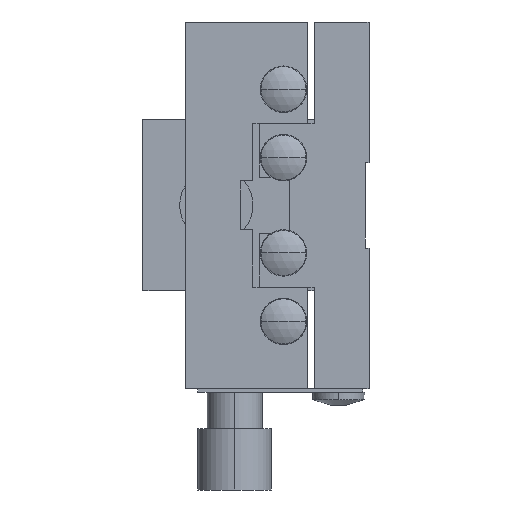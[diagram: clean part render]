
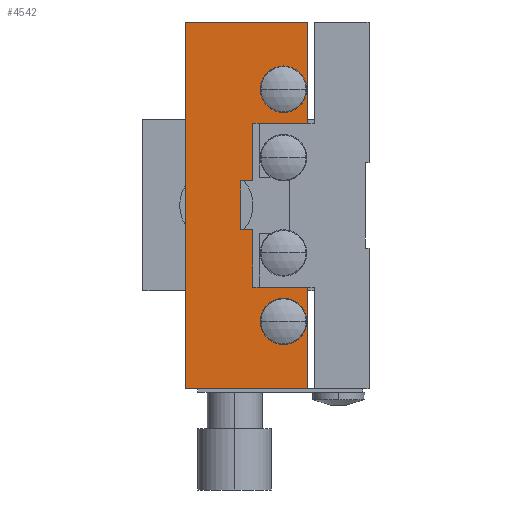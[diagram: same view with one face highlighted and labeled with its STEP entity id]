
A CAD part, left-side view. The second image highlights one B-rep face of the part: STEP entity #4542.
In plain terms, the highlighted planar face has unit normal (-1, 0, 0).
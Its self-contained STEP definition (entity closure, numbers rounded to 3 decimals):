
#2508 = EDGE_CURVE ( 'NONE', #3285, #3283, #4198, .T. ) ;
#2563 = VECTOR ( 'NONE', #6503, 1000. ) ;
#2585 = CIRCLE ( 'NONE', #2588, 1.9 ) ;
#2587 = VECTOR ( 'NONE', #6559, 1000. ) ;
#2588 = AXIS2_PLACEMENT_3D ( 'NONE', #6556, #6557, #6558 ) ;
#2589 = VECTOR ( 'NONE', #6563, 1000. ) ;
#2708 = CARTESIAN_POINT ( 'NONE',  ( -15., 8.9, -24.5 ) ) ;
#2715 = CARTESIAN_POINT ( 'NONE',  ( -15., 5.1, -24.5 ) ) ;
#2716 = CARTESIAN_POINT ( 'NONE',  ( -15., 8.9, -5.5 ) ) ;
#2718 = CARTESIAN_POINT ( 'NONE',  ( -15., 5.1, -5.5 ) ) ;
#2721 = CARTESIAN_POINT ( 'NONE',  ( -15., 5., -21.7 ) ) ;
#2736 = CARTESIAN_POINT ( 'NONE',  ( -15., 15., -30. ) ) ;
#2741 = CARTESIAN_POINT ( 'NONE',  ( -15., 5., -30. ) ) ;
#2744 = CARTESIAN_POINT ( 'NONE',  ( -15., 5., 0. ) ) ;
#2747 = CARTESIAN_POINT ( 'NONE',  ( -15., 5., -8.3 ) ) ;
#2748 = CARTESIAN_POINT ( 'NONE',  ( -15., 10.5, -13. ) ) ;
#2749 = CARTESIAN_POINT ( 'NONE',  ( -15., 15., 0. ) ) ;
#2757 = CARTESIAN_POINT ( 'NONE',  ( -15., 10.5, -17. ) ) ;
#2758 = CARTESIAN_POINT ( 'NONE',  ( -15., 9.5, -17. ) ) ;
#2759 = CARTESIAN_POINT ( 'NONE',  ( -15., 9.5, -13. ) ) ;
#2760 = CARTESIAN_POINT ( 'NONE',  ( -15., 9.5, -21.7 ) ) ;
#2761 = CARTESIAN_POINT ( 'NONE',  ( -15., 9.5, -8.3 ) ) ;
#3125 = EDGE_CURVE ( 'NONE', #3308, #3288, #4886, .T. ) ;
#3126 = EDGE_CURVE ( 'NONE', #3288, #3327, #4883, .T. ) ;
#3127 = EDGE_CURVE ( 'NONE', #3325, #3327, #4890, .T. ) ;
#3128 = EDGE_CURVE ( 'NONE', #3324, #3325, #4884, .T. ) ;
#3129 = EDGE_CURVE ( 'NONE', #3315, #3324, #4885, .T. ) ;
#3130 = EDGE_CURVE ( 'NONE', #3326, #3315, #4891, .T. ) ;
#3131 = EDGE_CURVE ( 'NONE', #3328, #3326, #4895, .T. ) ;
#3132 = EDGE_CURVE ( 'NONE', #3328, #3314, #4898, .T. ) ;
#3133 = EDGE_CURVE ( 'NONE', #3282, #3279, #4104, .T. ) ;
#3279 = VERTEX_POINT ( 'NONE', #2708 ) ;
#3282 = VERTEX_POINT ( 'NONE', #2715 ) ;
#3283 = VERTEX_POINT ( 'NONE', #2716 ) ;
#3285 = VERTEX_POINT ( 'NONE', #2718 ) ;
#3288 = VERTEX_POINT ( 'NONE', #2721 ) ;
#3303 = VERTEX_POINT ( 'NONE', #2736 ) ;
#3308 = VERTEX_POINT ( 'NONE', #2741 ) ;
#3311 = VERTEX_POINT ( 'NONE', #2744 ) ;
#3314 = VERTEX_POINT ( 'NONE', #2747 ) ;
#3315 = VERTEX_POINT ( 'NONE', #2748 ) ;
#3316 = VERTEX_POINT ( 'NONE', #2749 ) ;
#3324 = VERTEX_POINT ( 'NONE', #2757 ) ;
#3325 = VERTEX_POINT ( 'NONE', #2758 ) ;
#3326 = VERTEX_POINT ( 'NONE', #2759 ) ;
#3327 = VERTEX_POINT ( 'NONE', #2760 ) ;
#3328 = VERTEX_POINT ( 'NONE', #2761 ) ;
#3902 = VECTOR ( 'NONE', #4888, 1000. ) ;
#3908 = VECTOR ( 'NONE', #4893, 1000. ) ;
#3911 = VECTOR ( 'NONE', #4889, 1000. ) ;
#3981 = EDGE_CURVE ( 'NONE', #3279, #3282, #4630, .T. ) ;
#4092 = AXIS2_PLACEMENT_3D ( 'NONE', #4907, #4908, #4909 ) ;
#4095 = VECTOR ( 'NONE', #4899, 1000. ) ;
#4096 = VECTOR ( 'NONE', #4906, 1000. ) ;
#4103 = VECTOR ( 'NONE', #4896, 1000. ) ;
#4104 = CIRCLE ( 'NONE', #4092, 1.9 ) ;
#4106 = VECTOR ( 'NONE', #4904, 1000. ) ;
#4107 = VECTOR ( 'NONE', #4901, 1000. ) ;
#4142 = AXIS2_PLACEMENT_3D ( 'NONE', #6405, #6403, #6411 ) ;
#4144 = VECTOR ( 'NONE', #6493, 1000. ) ;
#4198 = CIRCLE ( 'NONE', #4203, 1.9 ) ;
#4203 = AXIS2_PLACEMENT_3D ( 'NONE', #4814, #4815, #4816 ) ;
#4542 = ADVANCED_FACE ( 'NONE', ( #6406, #6400, #6408 ), #6409, .F. ) ;
#4568 = EDGE_CURVE ( 'NONE', #3308, #3303, #6484, .T. ) ;
#4571 = EDGE_CURVE ( 'NONE', #3311, #3314, #6487, .T. ) ;
#4589 = EDGE_CURVE ( 'NONE', #3283, #3285, #2585, .T. ) ;
#4590 = EDGE_CURVE ( 'NONE', #3316, #3311, #6549, .T. ) ;
#4591 = EDGE_CURVE ( 'NONE', #3303, #3316, #6560, .T. ) ;
#4630 = CIRCLE ( 'NONE', #4631, 1.9 ) ;
#4631 = AXIS2_PLACEMENT_3D ( 'NONE', #5773, #5774, #5775 ) ;
#4814 = CARTESIAN_POINT ( 'NONE',  ( -15., 7., -5.5 ) ) ;
#4815 = DIRECTION ( 'NONE',  ( 1., 0., 0. ) ) ;
#4816 = DIRECTION ( 'NONE',  ( 0., -1., 0. ) ) ;
#4872 = CARTESIAN_POINT ( 'NONE',  ( -15., 9., -21.7 ) ) ;
#4883 = LINE ( 'NONE', #4872, #3911 ) ;
#4884 = LINE ( 'NONE', #4894, #4103 ) ;
#4885 = LINE ( 'NONE', #4897, #4095 ) ;
#4886 = LINE ( 'NONE', #4887, #3902 ) ;
#4887 = CARTESIAN_POINT ( 'NONE',  ( -15., 5., -22.2 ) ) ;
#4888 = DIRECTION ( 'NONE',  ( 0., 0., 1. ) ) ;
#4889 = DIRECTION ( 'NONE',  ( 0., 1., 0. ) ) ;
#4890 = LINE ( 'NONE', #4892, #3908 ) ;
#4891 = LINE ( 'NONE', #4900, #4107 ) ;
#4892 = CARTESIAN_POINT ( 'NONE',  ( -15., 9.5, -22.2 ) ) ;
#4893 = DIRECTION ( 'NONE',  ( 0., 0., -1. ) ) ;
#4894 = CARTESIAN_POINT ( 'NONE',  ( -15., 9.5, -17. ) ) ;
#4895 = LINE ( 'NONE', #4902, #4106 ) ;
#4896 = DIRECTION ( 'NONE',  ( 0., -1., 0. ) ) ;
#4897 = CARTESIAN_POINT ( 'NONE',  ( -15., 10.5, -17. ) ) ;
#4898 = LINE ( 'NONE', #4905, #4096 ) ;
#4899 = DIRECTION ( 'NONE',  ( 0., 0., -1. ) ) ;
#4900 = CARTESIAN_POINT ( 'NONE',  ( -15., 10.5, -13. ) ) ;
#4901 = DIRECTION ( 'NONE',  ( 0., 1., 0. ) ) ;
#4902 = CARTESIAN_POINT ( 'NONE',  ( -15., 9.5, -13. ) ) ;
#4904 = DIRECTION ( 'NONE',  ( 0., 0., -1. ) ) ;
#4905 = CARTESIAN_POINT ( 'NONE',  ( -15., 9., -8.3 ) ) ;
#4906 = DIRECTION ( 'NONE',  ( 0., -1., 0. ) ) ;
#4907 = CARTESIAN_POINT ( 'NONE',  ( -15., 7., -24.5 ) ) ;
#4908 = DIRECTION ( 'NONE',  ( -1., 0., 0. ) ) ;
#4909 = DIRECTION ( 'NONE',  ( 0., -1., 0. ) ) ;
#5773 = CARTESIAN_POINT ( 'NONE',  ( -15., 7., -24.5 ) ) ;
#5774 = DIRECTION ( 'NONE',  ( -1., 0., 0. ) ) ;
#5775 = DIRECTION ( 'NONE',  ( 0., -1., 0. ) ) ;
#6263 = EDGE_LOOP ( 'NONE', ( #6793, #6794 ) ) ;
#6273 = EDGE_LOOP ( 'NONE', ( #6779, #6780 ) ) ;
#6276 = EDGE_LOOP ( 'NONE', ( #6781, #6782, #6783, #6784, #6785, #6786, #6787, #6788, #6789, #6790, #6791, #6792 ) ) ;
#6400 = FACE_OUTER_BOUND ( 'NONE', #6276, .T. ) ;
#6403 = DIRECTION ( 'NONE',  ( 1., 0., 0. ) ) ;
#6405 = CARTESIAN_POINT ( 'NONE',  ( -15., 9., -3.9 ) ) ;
#6406 = FACE_BOUND ( 'NONE', #6273, .T. ) ;
#6408 = FACE_BOUND ( 'NONE', #6263, .T. ) ;
#6409 = PLANE ( 'NONE',  #4142 ) ;
#6411 = DIRECTION ( 'NONE',  ( 0., -1., 0. ) ) ;
#6484 = LINE ( 'NONE', #6492, #4144 ) ;
#6487 = LINE ( 'NONE', #6501, #2563 ) ;
#6492 = CARTESIAN_POINT ( 'NONE',  ( -15., 15., -30. ) ) ;
#6493 = DIRECTION ( 'NONE',  ( 0., 1., 0. ) ) ;
#6501 = CARTESIAN_POINT ( 'NONE',  ( -15., 5., -7.8 ) ) ;
#6503 = DIRECTION ( 'NONE',  ( 0., 0., -1. ) ) ;
#6549 = LINE ( 'NONE', #6550, #2587 ) ;
#6550 = CARTESIAN_POINT ( 'NONE',  ( -15., 5., 0. ) ) ;
#6556 = CARTESIAN_POINT ( 'NONE',  ( -15., 7., -5.5 ) ) ;
#6557 = DIRECTION ( 'NONE',  ( 1., 0., 0. ) ) ;
#6558 = DIRECTION ( 'NONE',  ( 0., -1., 0. ) ) ;
#6559 = DIRECTION ( 'NONE',  ( 0., -1., 0. ) ) ;
#6560 = LINE ( 'NONE', #6562, #2589 ) ;
#6562 = CARTESIAN_POINT ( 'NONE',  ( -15., 15., 0. ) ) ;
#6563 = DIRECTION ( 'NONE',  ( 0., 0., 1. ) ) ;
#6779 = ORIENTED_EDGE ( 'NONE', *, *, #2508, .T. ) ;
#6780 = ORIENTED_EDGE ( 'NONE', *, *, #4589, .T. ) ;
#6781 = ORIENTED_EDGE ( 'NONE', *, *, #4571, .F. ) ;
#6782 = ORIENTED_EDGE ( 'NONE', *, *, #4590, .F. ) ;
#6783 = ORIENTED_EDGE ( 'NONE', *, *, #4591, .F. ) ;
#6784 = ORIENTED_EDGE ( 'NONE', *, *, #4568, .F. ) ;
#6785 = ORIENTED_EDGE ( 'NONE', *, *, #3125, .T. ) ;
#6786 = ORIENTED_EDGE ( 'NONE', *, *, #3126, .T. ) ;
#6787 = ORIENTED_EDGE ( 'NONE', *, *, #3127, .F. ) ;
#6788 = ORIENTED_EDGE ( 'NONE', *, *, #3128, .F. ) ;
#6789 = ORIENTED_EDGE ( 'NONE', *, *, #3129, .F. ) ;
#6790 = ORIENTED_EDGE ( 'NONE', *, *, #3130, .F. ) ;
#6791 = ORIENTED_EDGE ( 'NONE', *, *, #3131, .F. ) ;
#6792 = ORIENTED_EDGE ( 'NONE', *, *, #3132, .T. ) ;
#6793 = ORIENTED_EDGE ( 'NONE', *, *, #3133, .F. ) ;
#6794 = ORIENTED_EDGE ( 'NONE', *, *, #3981, .F. ) ;
